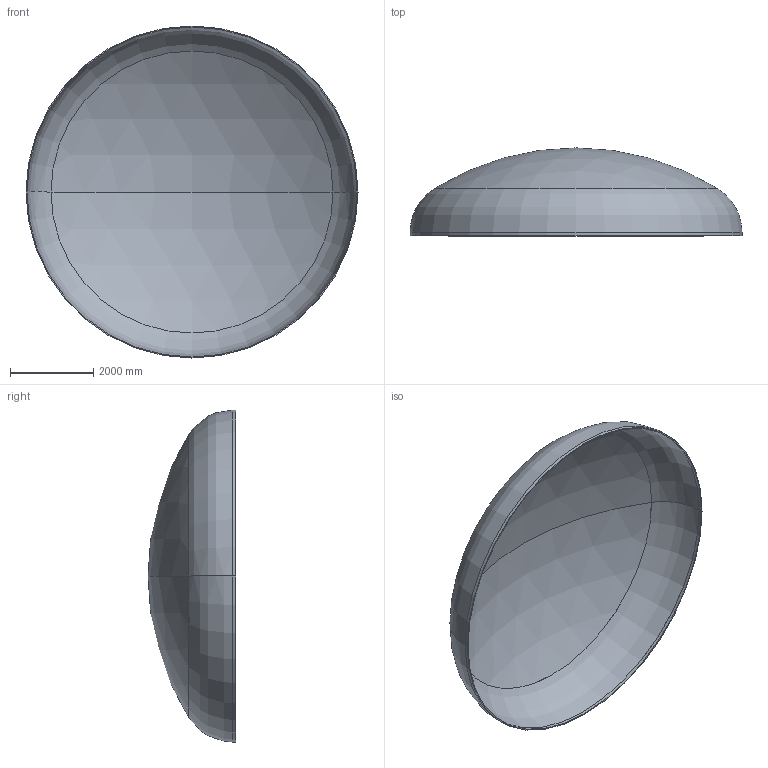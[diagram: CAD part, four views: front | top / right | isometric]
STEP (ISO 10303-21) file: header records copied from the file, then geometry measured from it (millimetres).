
FILE_DESCRIPTION (( 'STEP AP203' ), '1' );
FILE_NAME ('DIN 28013 Korbbogenform_-_Boden DIN 28013 - 8000 x 75 - I - s=24.step', '2016-07-04T10:59:39', ( '' ), ( '' ), 'SwSTEP 2.0', 'SolidWorks 2013', '' );
FILE_SCHEMA (( 'CONFIG_CONTROL_DESIGN' ));
Length unit declared in the file: millimetre
Products named in the file (1): DIN 28013 Korbbogenform_-_Boden DIN 28013 - 8000 x 75 - I - s=24
Bounding box: 8000 x 2118.55 x 8000 mm (x, y, z)
Volume: 1708888590.8 mm3; surface area: 143009907.1 mm2
Topology: 1 solids, 1 shells, 13 faces, 24 edges, 14 vertices
Faces by surface type: torus 4, cylinder 4, sphere 4, plane 1
Entity records: 407 total; most frequent: DIRECTION 72, CARTESIAN_POINT 52, ORIENTED_EDGE 48, AXIS2_PLACEMENT_3D 34, EDGE_CURVE 24, CIRCLE 20, EDGE_LOOP 14, VERTEX_POINT 14
